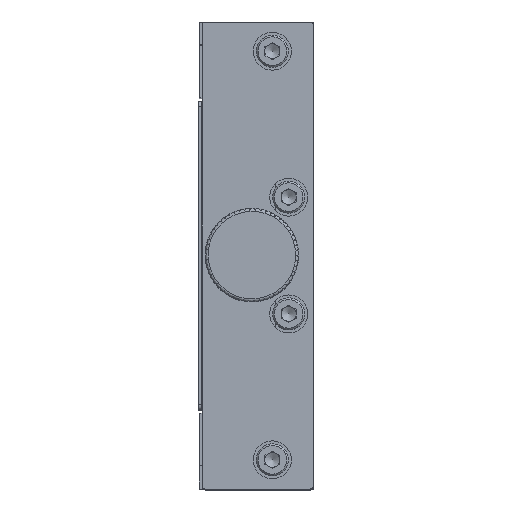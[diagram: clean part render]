
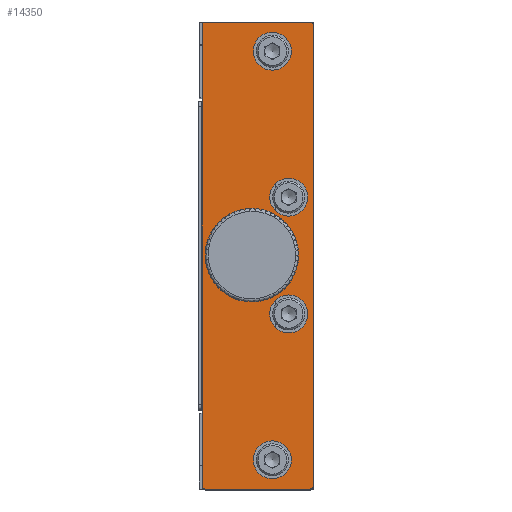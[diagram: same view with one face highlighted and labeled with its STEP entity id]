
A CAD part, top view. The second image highlights one B-rep face of the part: STEP entity #14350.
In plain terms, the highlighted planar face has unit normal (0, 0, 1).
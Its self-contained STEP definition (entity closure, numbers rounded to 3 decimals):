
#2427 = EDGE_CURVE ( 'NONE', #21247, #21247, #11620, .T. ) ;
#2428 = CARTESIAN_POINT ( 'NONE',  ( -311.164, -456.975, 9.5 ) ) ;
#2434 = EDGE_CURVE ( 'NONE', #3746, #3762, #11600, .T. ) ;
#2441 = EDGE_CURVE ( 'NONE', #3763, #3774, #11638, .T. ) ;
#2467 = EDGE_CURVE ( 'NONE', #3687, #3688, #11656, .T. ) ;
#2479 = CARTESIAN_POINT ( 'NONE',  ( -308.364, -481.975, 9.5 ) ) ;
#2505 = CARTESIAN_POINT ( 'NONE',  ( -308.364, -501.975, 9.5 ) ) ;
#2558 = EDGE_CURVE ( 'NONE', #21218, #21218, #12212, .T. ) ;
#2604 = EDGE_CURVE ( 'NONE', #3774, #3788, #12284, .T. ) ;
#2623 = EDGE_CURVE ( 'NONE', #21203, #21203, #12311, .T. ) ;
#2633 = CARTESIAN_POINT ( 'NONE',  ( -314.664, -501.225, 9.5 ) ) ;
#2665 = CARTESIAN_POINT ( 'NONE',  ( -311.164, -526.975, 9.5 ) ) ;
#2743 = CARTESIAN_POINT ( 'NONE',  ( -311.164, -530.225, 9.5 ) ) ;
#2744 = DIRECTION ( 'NONE',  ( 0., 0., 1. ) ) ;
#2745 = DIRECTION ( 'NONE',  ( 0., 1., 0. ) ) ;
#2773 = CARTESIAN_POINT ( 'NONE',  ( -304.664, -455.725, 9.5 ) ) ;
#2774 = DIRECTION ( 'NONE',  ( 0., 0., 1. ) ) ;
#2775 = DIRECTION ( 'NONE',  ( 0., -1., 0. ) ) ;
#2789 = CARTESIAN_POINT ( 'NONE',  ( -322.664, -534.725, 9.5 ) ) ;
#2790 = DIRECTION ( 'NONE',  ( 0., 0., 1. ) ) ;
#2791 = DIRECTION ( 'NONE',  ( 0., -1., 0. ) ) ;
#2793 = CARTESIAN_POINT ( 'NONE',  ( -322.664, -455.725, 9.5 ) ) ;
#2794 = DIRECTION ( 'NONE',  ( 0., 0., 1. ) ) ;
#2795 = DIRECTION ( 'NONE',  ( 0., -1., 0. ) ) ;
#3687 = VERTEX_POINT ( 'NONE', #13217 ) ;
#3688 = VERTEX_POINT ( 'NONE', #13218 ) ;
#3746 = VERTEX_POINT ( 'NONE', #13281 ) ;
#3762 = VERTEX_POINT ( 'NONE', #13297 ) ;
#3763 = VERTEX_POINT ( 'NONE', #13298 ) ;
#3774 = VERTEX_POINT ( 'NONE', #13309 ) ;
#3786 = VERTEX_POINT ( 'NONE', #13321 ) ;
#3788 = VERTEX_POINT ( 'NONE', #13323 ) ;
#6388 = CARTESIAN_POINT ( 'NONE',  ( -314.664, -495.225, 9.5 ) ) ;
#6389 = DIRECTION ( 'NONE',  ( 0., 0., -1. ) ) ;
#6390 = DIRECTION ( 'NONE',  ( 0., -1., 0. ) ) ;
#6454 = CARTESIAN_POINT ( 'NONE',  ( -304.164, -535.225, 9.5 ) ) ;
#6455 = DIRECTION ( 'NONE',  ( 1., 0., 0. ) ) ;
#8951 = DIRECTION ( 'NONE',  ( -1., 0., 0. ) ) ;
#8952 = CARTESIAN_POINT ( 'NONE',  ( -311.164, -460.225, 9.5 ) ) ;
#8953 = DIRECTION ( 'NONE',  ( 0., 0., 1. ) ) ;
#8954 = DIRECTION ( 'NONE',  ( 0., 1., 0. ) ) ;
#8959 = CARTESIAN_POINT ( 'NONE',  ( -304.164, -455.225, 9.5 ) ) ;
#8968 = CARTESIAN_POINT ( 'NONE',  ( -304.664, -534.725, 9.5 ) ) ;
#8969 = DIRECTION ( 'NONE',  ( 0., 0., 1. ) ) ;
#8970 = DIRECTION ( 'NONE',  ( 0., -1., 0. ) ) ;
#8987 = CARTESIAN_POINT ( 'NONE',  ( -323.164, -535.225, 9.5 ) ) ;
#9002 = DIRECTION ( 'NONE',  ( 0., -1., 0. ) ) ;
#11099 = AXIS2_PLACEMENT_3D ( 'NONE', #17834, #17829, #17836 ) ;
#11600 = LINE ( 'NONE', #8959, #11630 ) ;
#11620 = CIRCLE ( 'NONE', #14580, 3.25 ) ;
#11630 = VECTOR ( 'NONE', #8951, 1000. ) ;
#11638 = CIRCLE ( 'NONE', #14584, 0.5 ) ;
#11656 = LINE ( 'NONE', #8987, #12040 ) ;
#11781 = EDGE_LOOP ( 'NONE', ( #12422 ) ) ;
#11810 = EDGE_LOOP ( 'NONE', ( #12421 ) ) ;
#11841 = EDGE_LOOP ( 'NONE', ( #12438, #12437, #12434, #12433, #12432, #12431, #12428, #12427 ) ) ;
#11879 = EDGE_LOOP ( 'NONE', ( #12425 ) ) ;
#11899 = EDGE_LOOP ( 'NONE', ( #12420 ) ) ;
#11914 = EDGE_LOOP ( 'NONE', ( #12426 ) ) ;
#12040 = VECTOR ( 'NONE', #9002, 1000. ) ;
#12212 = CIRCLE ( 'NONE', #14614, 3.25 ) ;
#12284 = LINE ( 'NONE', #13119, #12300 ) ;
#12300 = VECTOR ( 'NONE', #13127, 1000. ) ;
#12311 = CIRCLE ( 'NONE', #14632, 3.25 ) ;
#12420 = ORIENTED_EDGE ( 'NONE', *, *, #12473, .T. ) ;
#12421 = ORIENTED_EDGE ( 'NONE', *, *, #12517, .F. ) ;
#12422 = ORIENTED_EDGE ( 'NONE', *, *, #2623, .F. ) ;
#12425 = ORIENTED_EDGE ( 'NONE', *, *, #2558, .F. ) ;
#12426 = ORIENTED_EDGE ( 'NONE', *, *, #2427, .F. ) ;
#12427 = ORIENTED_EDGE ( 'NONE', *, *, #12534, .T. ) ;
#12428 = ORIENTED_EDGE ( 'NONE', *, *, #2467, .T. ) ;
#12431 = ORIENTED_EDGE ( 'NONE', *, *, #12535, .T. ) ;
#12432 = ORIENTED_EDGE ( 'NONE', *, *, #2434, .T. ) ;
#12433 = ORIENTED_EDGE ( 'NONE', *, *, #12528, .T. ) ;
#12434 = ORIENTED_EDGE ( 'NONE', *, *, #2604, .T. ) ;
#12437 = ORIENTED_EDGE ( 'NONE', *, *, #2441, .T. ) ;
#12438 = ORIENTED_EDGE ( 'NONE', *, *, #12500, .T. ) ;
#12473 = EDGE_CURVE ( 'NONE', #21129, #21129, #19142, .T. ) ;
#12500 = EDGE_CURVE ( 'NONE', #3786, #3763, #19102, .T. ) ;
#12517 = EDGE_CURVE ( 'NONE', #21108, #21108, #19079, .T. ) ;
#12528 = EDGE_CURVE ( 'NONE', #3788, #3746, #19060, .T. ) ;
#12534 = EDGE_CURVE ( 'NONE', #3688, #3786, #19052, .T. ) ;
#12535 = EDGE_CURVE ( 'NONE', #3762, #3687, #19055, .T. ) ;
#13075 = CARTESIAN_POINT ( 'NONE',  ( -308.364, -485.225, 9.5 ) ) ;
#13076 = DIRECTION ( 'NONE',  ( 0., 0., 1. ) ) ;
#13077 = DIRECTION ( 'NONE',  ( 0., 1., 0. ) ) ;
#13119 = CARTESIAN_POINT ( 'NONE',  ( -304.164, -535.225, 9.5 ) ) ;
#13127 = DIRECTION ( 'NONE',  ( 0., 1., 0. ) ) ;
#13187 = CARTESIAN_POINT ( 'NONE',  ( -308.364, -505.225, 9.5 ) ) ;
#13188 = DIRECTION ( 'NONE',  ( 0., 0., 1. ) ) ;
#13189 = DIRECTION ( 'NONE',  ( 0., 1., 0. ) ) ;
#13217 = CARTESIAN_POINT ( 'NONE',  ( -323.164, -455.725, 9.5 ) ) ;
#13218 = CARTESIAN_POINT ( 'NONE',  ( -323.164, -534.725, 9.5 ) ) ;
#13281 = CARTESIAN_POINT ( 'NONE',  ( -304.664, -455.225, 9.5 ) ) ;
#13297 = CARTESIAN_POINT ( 'NONE',  ( -322.664, -455.225, 9.5 ) ) ;
#13298 = CARTESIAN_POINT ( 'NONE',  ( -304.664, -535.225, 9.5 ) ) ;
#13309 = CARTESIAN_POINT ( 'NONE',  ( -304.164, -534.725, 9.5 ) ) ;
#13321 = CARTESIAN_POINT ( 'NONE',  ( -322.664, -535.225, 9.5 ) ) ;
#13323 = CARTESIAN_POINT ( 'NONE',  ( -304.164, -455.725, 9.5 ) ) ;
#14350 = ADVANCED_FACE ( 'NONE', ( #22206, #22201, #22225, #22202, #22204, #22200 ), #17833, .F. ) ;
#14580 = AXIS2_PLACEMENT_3D ( 'NONE', #8952, #8953, #8954 ) ;
#14584 = AXIS2_PLACEMENT_3D ( 'NONE', #8968, #8969, #8970 ) ;
#14614 = AXIS2_PLACEMENT_3D ( 'NONE', #13075, #13076, #13077 ) ;
#14632 = AXIS2_PLACEMENT_3D ( 'NONE', #13187, #13188, #13189 ) ;
#14838 = AXIS2_PLACEMENT_3D ( 'NONE', #6388, #6389, #6390 ) ;
#14862 = AXIS2_PLACEMENT_3D ( 'NONE', #2743, #2744, #2745 ) ;
#14869 = AXIS2_PLACEMENT_3D ( 'NONE', #2773, #2774, #2775 ) ;
#14873 = AXIS2_PLACEMENT_3D ( 'NONE', #2789, #2790, #2791 ) ;
#14874 = AXIS2_PLACEMENT_3D ( 'NONE', #2793, #2794, #2795 ) ;
#17829 = DIRECTION ( 'NONE',  ( 0., 0., -1. ) ) ;
#17833 = PLANE ( 'NONE',  #11099 ) ;
#17834 = CARTESIAN_POINT ( 'NONE',  ( -313.664, -495.225, 9.5 ) ) ;
#17836 = DIRECTION ( 'NONE',  ( 0., -1., 0. ) ) ;
#19052 = CIRCLE ( 'NONE', #14873, 0.5 ) ;
#19055 = CIRCLE ( 'NONE', #14874, 0.5 ) ;
#19060 = CIRCLE ( 'NONE', #14869, 0.5 ) ;
#19079 = CIRCLE ( 'NONE', #14862, 3.25 ) ;
#19099 = VECTOR ( 'NONE', #6455, 1000. ) ;
#19102 = LINE ( 'NONE', #6454, #19099 ) ;
#19142 = CIRCLE ( 'NONE', #14838, 6. ) ;
#21108 = VERTEX_POINT ( 'NONE', #2665 ) ;
#21129 = VERTEX_POINT ( 'NONE', #2633 ) ;
#21203 = VERTEX_POINT ( 'NONE', #2505 ) ;
#21218 = VERTEX_POINT ( 'NONE', #2479 ) ;
#21247 = VERTEX_POINT ( 'NONE', #2428 ) ;
#22200 = FACE_BOUND ( 'NONE', #11899, .T. ) ;
#22201 = FACE_BOUND ( 'NONE', #11914, .T. ) ;
#22202 = FACE_BOUND ( 'NONE', #11781, .T. ) ;
#22204 = FACE_BOUND ( 'NONE', #11810, .T. ) ;
#22206 = FACE_OUTER_BOUND ( 'NONE', #11841, .T. ) ;
#22225 = FACE_BOUND ( 'NONE', #11879, .T. ) ;
